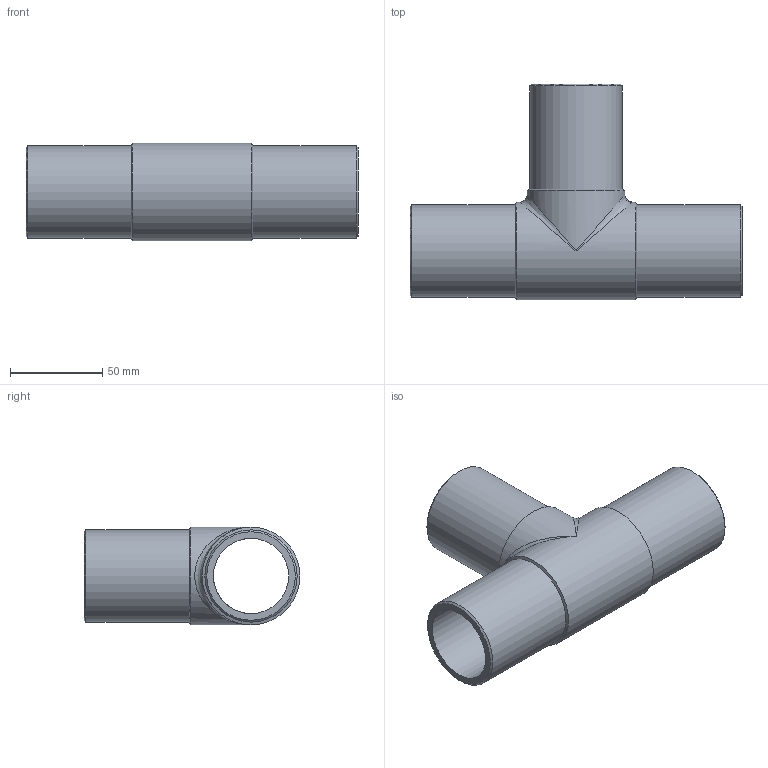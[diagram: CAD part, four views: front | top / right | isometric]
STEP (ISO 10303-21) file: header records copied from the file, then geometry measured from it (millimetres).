
FILE_DESCRIPTION(/* description */ ('Unknown'),/* implementation_level */ '2;1');
FILE_NAME(/* name */ 'TP050C',/* time_stamp */ '2021-08-12T15:12:22+02:00',/* author */ ('Unknown'),/* organization */ ('Unknown'),/* preprocessor_version */ 'ST-DEVELOPER v16.7',/* originating_system */ 'Solid Edge',/* authorisation */ 'Unknown');
FILE_SCHEMA (('AUTOMOTIVE_DESIGN {1 0 10303 214 3 1 1}'));
Length unit declared in the file: millimetre
Products named in the file (1): TP050C
Bounding box: 180 x 117 x 53 mm (x, y, z)
Volume: 174447.7 mm3; surface area: 71254 mm2
Topology: 1 solids, 1 shells, 18 faces, 44 edges, 23 vertices
Faces by surface type: cylinder 7, cone 6, plane 3, bspline 2
Full cylindrical faces by diameter (mm): 40.8 x2, 50 x3, 53 x2
Entity records: 504 total; most frequent: CARTESIAN_POINT 147, DIRECTION 76, ORIENTED_EDGE 42, AXIS2_PLACEMENT_3D 38, EDGE_LOOP 36, FACE_BOUND 36, EDGE_CURVE 21, VERTEX_POINT 19
